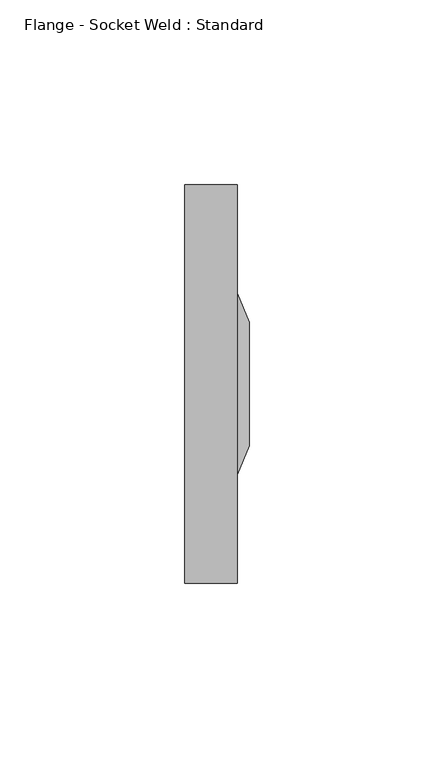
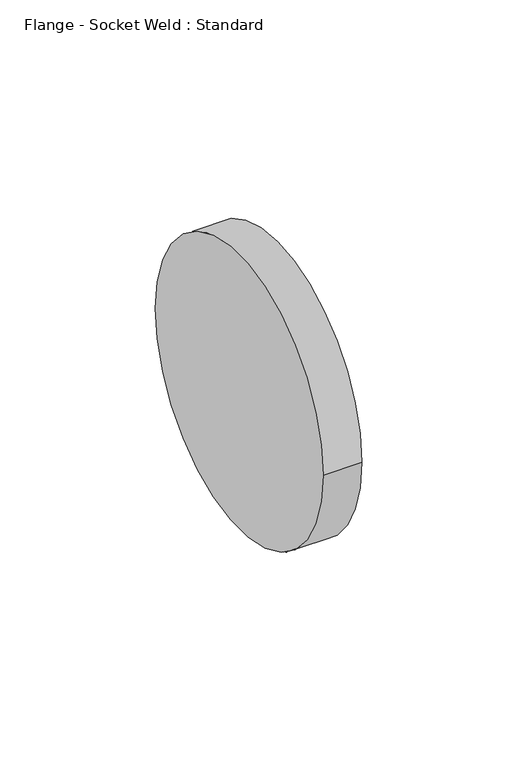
"""IFC4 building model written with IfcOpenShell, lengths in millimetres: valve geometry, Flange - Socket Weld : Standard."""

from ifc_helpers import new_model, si_unit, frame, origin, place, context, project, spatial, polyline, circle_curve, source, transform, mapped, element, save
from ifc_brep_helpers import plane_surface, cylinder_surface, revolved_surface, advanced_brep


def flange_socket_weld_standard_dd9f397d(model_context):
    return source(origin(), model_context, "Body", "AdvancedBrep", [
        advanced_brep(
        [(1.5875, -53.975, 0.0), (1.5875, 53.975, 0.0), (15.875, -53.975, 0.0), (15.875, 53.975, 0.0), (15.875, 24.60625, 0.0), (15.875, -24.60625, 0.0), (19.05, -16.764, 0.0), (19.05, 16.764, 0.0)],
        [
            (0, 1, circle_curve(frame((1.5875, 0.0, 0.0), z_axis=(-1.0, 0.0, 0.0), x_axis=(0.0, 1.0, 0.0)), 53.975)),
            (1, 0, circle_curve(frame((1.5875, 0.0, 0.0), z_axis=(-1.0, 0.0, 0.0), x_axis=(0.0, 1.0, 0.0)), 53.975)),
            (2, 3, circle_curve(frame((15.875, 0.0, 0.0), z_axis=(1.0, 0.0, 0.0), x_axis=(0.0, 1.0, 0.0)), 53.975)),
            (3, 2, circle_curve(frame((15.875, 0.0, 0.0), z_axis=(1.0, 0.0, 0.0), x_axis=(0.0, 1.0, 0.0)), 53.975)),
            (4, 5, circle_curve(frame((15.875, 0.0, 0.0), z_axis=(-1.0, 0.0, 0.0), x_axis=(0.0, -1.0, 0.0)), 24.60625)),
            (5, 4, circle_curve(frame((15.875, 0.0, 0.0), z_axis=(-1.0, 0.0, 0.0), x_axis=(0.0, 1.0, 0.0)), 24.60625)),
            (0, 2),
            (3, 1),
            (6, 7, circle_curve(frame((19.05, 0.0, 0.0), z_axis=(1.0, 0.0, 0.0), x_axis=(0.0, -1.0, 0.0)), 16.764)),
            (7, 6, circle_curve(frame((19.05, 0.0, 0.0), z_axis=(1.0, 0.0, 0.0), x_axis=(0.0, 1.0, 0.0)), 16.764)),
            (6, 5),
            (4, 7),
        ],
        [
            plane_surface(frame((1.5875, 0.0, 0.0), z_axis=(-1.0, 0.0, 0.0), x_axis=(0.0, 0.0, 1.0))),
            plane_surface(frame((15.875, 0.0, 0.0), z_axis=(1.0, 0.0, 0.0), x_axis=(0.0, 0.0, 1.0))),
            cylinder_surface(frame((1.5875, 0.0, 0.0), z_axis=(-1.0, 0.0, 0.0), x_axis=(0.0, 1.0, 0.0)), 53.975),
            plane_surface(frame((19.05, 0.0, 0.0), z_axis=(1.0, 0.0, 0.0), x_axis=(0.0, 0.0, -1.0))),
            revolved_surface(polyline([(19.05, -16.763999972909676, 0.0), (15.875, -24.60625, 0.0)]), (25.8370445, 0.0, 0.0), (-1.0, 0.0, 0.0)),
            revolved_surface(polyline([(19.05, 16.763999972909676, 0.0), (15.875, 24.60625, 0.0)]), (25.8370445, 0.0, 0.0), (-1.0, 0.0, 0.0)),
        ],
        [
            (0, [[1, 2]]),
            (1, [[3, 4], [5, 6]]),
            (2, [[-1, 7, -4, 8]]),
            (2, [[-2, -8, -3, -7]]),
            (3, [[9, 10]]),
            (4, [[-9, 11, -5, 12]]),
            (5, [[-10, -12, -6, -11]]),
        ],
    ),
    ])


if __name__ == "__main__":
    model = new_model("IFC4")
    model_context = context("Model", 3, world=origin())
    ifc_project = project(units=[si_unit("LENGTHUNIT", "METRE", prefix="MILLI")], contexts=[model_context])
    site = spatial("IfcSite", under=ifc_project)
    building = spatial("IfcBuilding", under=site)
    placement = place(None, origin())
    flange_socket_weld_standard_shape = flange_socket_weld_standard_dd9f397d(model_context)
    element("IfcValve", 1, ObjectType="Flange - Socket Weld : Standard", at=placement, inside=building, context=model_context, shape_type="MappedRepresentation", body=[
        mapped(flange_socket_weld_standard_shape, transform((0.0, 0.0, 0.0), x_axis=(1.0, 0.0, 0.0), y_axis=(0.0, 1.0, 0.0), z_axis=(0.0, 0.0, 1.0))),
    ])
    save(model, "model.ifc")
